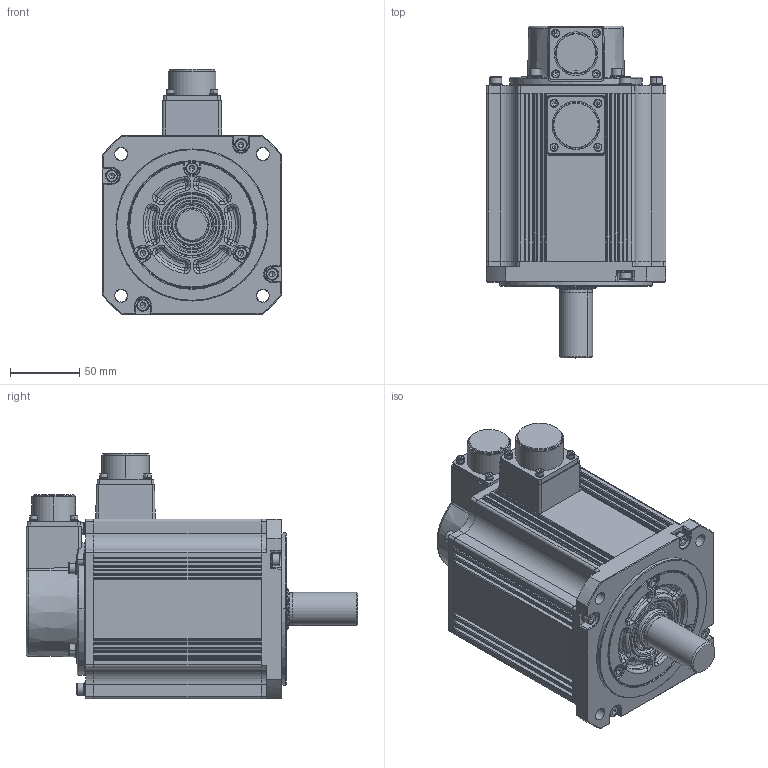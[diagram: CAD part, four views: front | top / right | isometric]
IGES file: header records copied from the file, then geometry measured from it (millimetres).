
Global section: file name: No Iges File Name specified; native system: AutoDesk Inventor R12.0; preprocessor: AutoDesk Inventor Iges Exporter R12.0; author: No Author specified; organization: No Organization specified; date: 20160715.183012; units: millimetre
Bounding box: 130 x 240 x 177.7 mm (x, y, z)
Volume: 2460737.9 mm3; surface area: 167145.4 mm2
Topology: 1 solids, 1 shells, 1167 faces, 2966 edges, 1832 vertices
Faces by surface type: plane 454, cylinder 250, revolution 220, torus 182, cone 34, bspline 19, sphere 8
